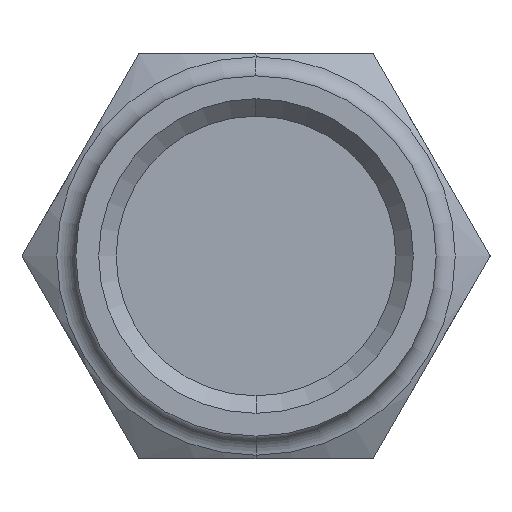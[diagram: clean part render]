
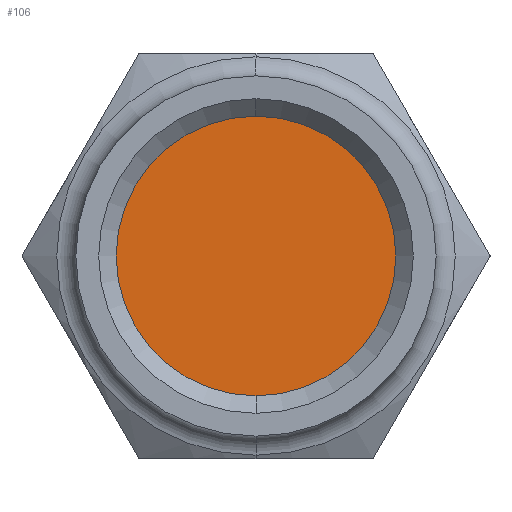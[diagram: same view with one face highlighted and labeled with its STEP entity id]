
A CAD part, left-side view. The second image highlights one B-rep face of the part: STEP entity #106.
In plain terms, the highlighted planar face has unit normal (-1, 0, 0).
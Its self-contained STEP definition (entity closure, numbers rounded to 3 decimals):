
#106 = ADVANCED_FACE( '', ( #185 ), #186, .F. );
#185 = FACE_OUTER_BOUND( '', #282, .T. );
#186 = PLANE( '', #283 );
#282 = EDGE_LOOP( '', ( #553, #554 ) );
#283 = AXIS2_PLACEMENT_3D( '', #555, #556, #557 );
#553 = ORIENTED_EDGE( '', *, *, #705, .F. );
#554 = ORIENTED_EDGE( '', *, *, #760, .F. );
#555 = CARTESIAN_POINT( '', ( 12.5, 0., 4.658 ) );
#556 = DIRECTION( '', ( 1., 0., 0. ) );
#557 = DIRECTION( '', ( 0., 0., 1. ) );
#705 = EDGE_CURVE( '', #839, #842, #843, .T. );
#760 = EDGE_CURVE( '', #842, #839, #928, .T. );
#839 = VERTEX_POINT( '', #1057 );
#842 = VERTEX_POINT( '', #1061 );
#843 = CIRCLE( '', #1062, 9.316 );
#928 = CIRCLE( '', #1212, 9.316 );
#1057 = CARTESIAN_POINT( '', ( 12.5, 0., 9.316 ) );
#1061 = CARTESIAN_POINT( '', ( 12.5, 0., -9.316 ) );
#1062 = AXIS2_PLACEMENT_3D( '', #1294, #1295, #1296 );
#1212 = AXIS2_PLACEMENT_3D( '', #1389, #1390, #1391 );
#1294 = CARTESIAN_POINT( '', ( 12.5, 0., 0. ) );
#1295 = DIRECTION( '', ( 1., 0., 0. ) );
#1296 = DIRECTION( '', ( 0., 0., 1. ) );
#1389 = CARTESIAN_POINT( '', ( 12.5, 0., 0. ) );
#1390 = DIRECTION( '', ( 1., 0., 0. ) );
#1391 = DIRECTION( '', ( 0., 0., 1. ) );
